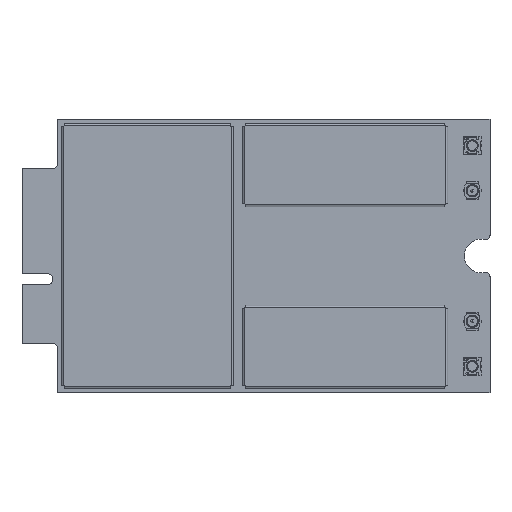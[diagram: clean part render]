
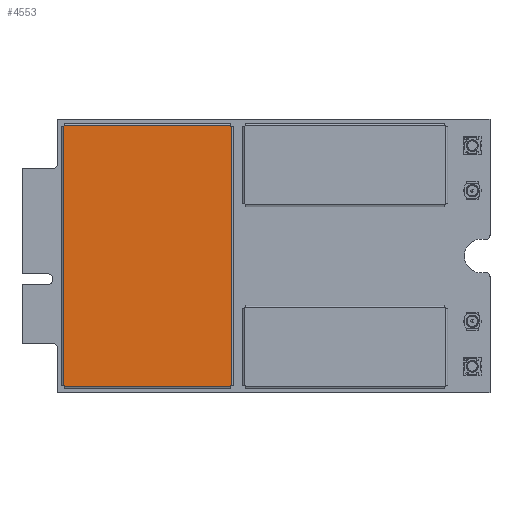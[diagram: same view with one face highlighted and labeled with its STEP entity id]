
A CAD part, top view. The second image highlights one B-rep face of the part: STEP entity #4553.
In plain terms, the highlighted planar face has unit normal (0, 0, 1) as drawn and (0, 1, 0) by its records, which use the part's own axes.
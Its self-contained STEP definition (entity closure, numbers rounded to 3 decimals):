
#3298=CARTESIAN_POINT('',(9.5,0.15,-14.8));
#3299=DIRECTION('',(0.,1.,0.));
#3300=DIRECTION('',(-1.,0.,0.));
#3301=AXIS2_PLACEMENT_3D('',#3298,#3299,#3300);
#3303=CARTESIAN_POINT('',(9.5,0.15,14.8));
#3304=DIRECTION('',(0.,1.,0.));
#3305=DIRECTION('',(0.,0.,-1.));
#3306=AXIS2_PLACEMENT_3D('',#3303,#3304,#3305);
#3308=CARTESIAN_POINT('',(-9.5,0.15,14.8));
#3309=DIRECTION('',(0.,1.,0.));
#3310=DIRECTION('',(1.,0.,0.));
#3311=AXIS2_PLACEMENT_3D('',#3308,#3309,#3310);
#3313=CARTESIAN_POINT('',(-9.5,0.15,-14.8));
#3314=DIRECTION('',(0.,1.,0.));
#3315=DIRECTION('',(0.,0.,1.));
#3316=AXIS2_PLACEMENT_3D('',#3313,#3314,#3315);
#3322=DIRECTION('',(-1.,0.,0.));
#3323=VECTOR('',#3322,18.8);
#3324=CARTESIAN_POINT('',(9.4,0.15,-14.8));
#3325=LINE('',#3324,#3323);
#3362=DIRECTION('',(0.,0.,1.));
#3363=VECTOR('',#3362,29.4);
#3364=CARTESIAN_POINT('',(-9.5,0.15,-14.7));
#3365=LINE('',#3364,#3363);
#3402=DIRECTION('',(1.,0.,0.));
#3403=VECTOR('',#3402,18.8);
#3404=CARTESIAN_POINT('',(-9.4,0.15,14.8));
#3405=LINE('',#3404,#3403);
#3442=DIRECTION('',(0.,0.,-1.));
#3443=VECTOR('',#3442,29.4);
#3444=CARTESIAN_POINT('',(9.5,0.15,14.7));
#3445=LINE('',#3444,#3443);
#4274=CARTESIAN_POINT('',(9.4,0.15,-14.8));
#4275=CARTESIAN_POINT('',(-9.4,0.15,-14.8));
#4276=VERTEX_POINT('',#4274);
#4277=VERTEX_POINT('',#4275);
#4278=CARTESIAN_POINT('',(9.5,0.15,-14.7));
#4279=VERTEX_POINT('',#4278);
#4280=CARTESIAN_POINT('',(9.5,0.15,14.7));
#4281=VERTEX_POINT('',#4280);
#4282=CARTESIAN_POINT('',(9.4,0.15,14.8));
#4283=VERTEX_POINT('',#4282);
#4284=CARTESIAN_POINT('',(-9.4,0.15,14.8));
#4285=VERTEX_POINT('',#4284);
#4286=CARTESIAN_POINT('',(-9.5,0.15,14.7));
#4287=VERTEX_POINT('',#4286);
#4288=CARTESIAN_POINT('',(-9.5,0.15,-14.7));
#4289=VERTEX_POINT('',#4288);
#4530=CARTESIAN_POINT('',(0.,0.15,0.));
#4531=DIRECTION('',(0.,1.,0.));
#4532=DIRECTION('',(1.,0.,0.));
#4533=AXIS2_PLACEMENT_3D('',#4530,#4531,#4532);
#4534=PLANE('',#4533);
#4536=ORIENTED_EDGE('',*,*,#4535,.F.);
#4538=ORIENTED_EDGE('',*,*,#4537,.T.);
#4540=ORIENTED_EDGE('',*,*,#4539,.F.);
#4542=ORIENTED_EDGE('',*,*,#4541,.T.);
#4544=ORIENTED_EDGE('',*,*,#4543,.F.);
#4546=ORIENTED_EDGE('',*,*,#4545,.T.);
#4548=ORIENTED_EDGE('',*,*,#4547,.F.);
#4550=ORIENTED_EDGE('',*,*,#4549,.T.);
#4551=EDGE_LOOP('',(#4536,#4538,#4540,#4542,#4544,#4546,#4548,#4550));
#4552=FACE_OUTER_BOUND('',#4551,.F.);
#4553=ADVANCED_FACE('',(#4552),#4534,.T.);
#3302=CIRCLE('',#3301,0.1);
#3307=CIRCLE('',#3306,0.1);
#3312=CIRCLE('',#3311,0.1);
#3317=CIRCLE('',#3316,0.1);
#4535=EDGE_CURVE('',#4276,#4277,#3325,.T.);
#4537=EDGE_CURVE('',#4276,#4279,#3302,.T.);
#4539=EDGE_CURVE('',#4281,#4279,#3445,.T.);
#4541=EDGE_CURVE('',#4281,#4283,#3307,.T.);
#4543=EDGE_CURVE('',#4285,#4283,#3405,.T.);
#4545=EDGE_CURVE('',#4285,#4287,#3312,.T.);
#4547=EDGE_CURVE('',#4289,#4287,#3365,.T.);
#4549=EDGE_CURVE('',#4289,#4277,#3317,.T.);
